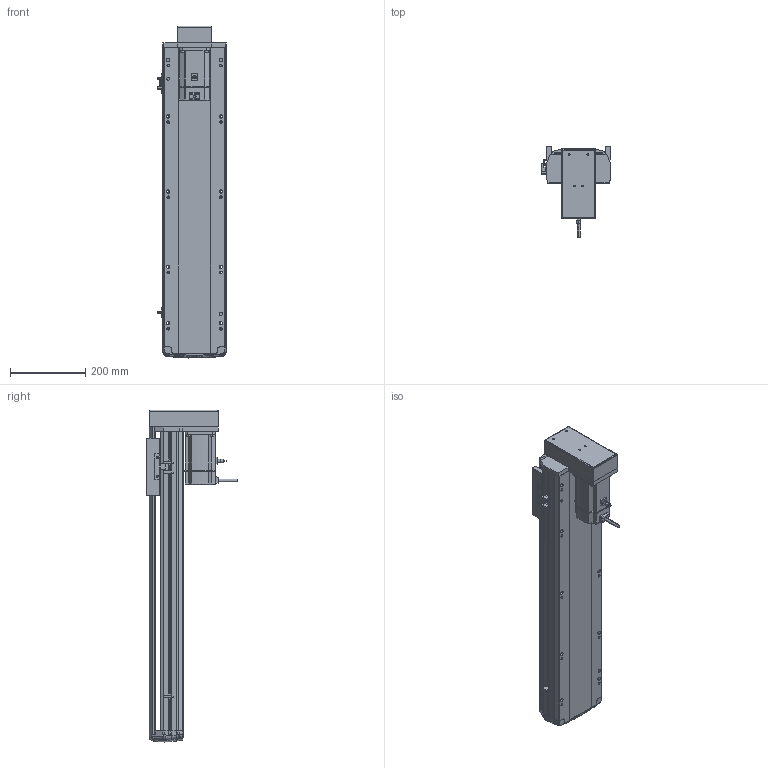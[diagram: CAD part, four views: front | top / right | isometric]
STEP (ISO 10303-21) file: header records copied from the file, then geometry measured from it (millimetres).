
FILE_DESCRIPTION (( 'STEP AP214' ), '1' );
FILE_NAME ('RTH17-XX-600-M-M75-C4.STEP', '2025-10-24T10:24:30', ( '' ), ( '' ), 'SwSTEP 2.0', 'SolidWorks 2018', '' );
FILE_SCHEMA (( 'AUTOMOTIVE_DESIGN' ));
Length unit declared in the file: millimetre
Products named in the file (10): N_RTH17-GY-001P^RTH17-XX-XX-M-M75-C4（方程式）; N_RTH17-M-007上盖^RTH17-XX-XX-M-M75-C4（方程式）; N_RTH17-M-018盖子^RTH17-XX-XX-M-M75-C4（方程式）; N_OMRON EE-SX672 換覜ん^RTH17-XX-XX-M-M75-C4ㄗ源最宒ㄘ; N_RTH17-M-011底座^RTH17-XX-XX-M-M75-C4（方程式）; N_M75^RTH17-XX-XX-M-M75-C4（方程式）; N_RTH-BL-012 感应片(外置)^RTH17-XX-XX-M-M75-C4（方程式）; N_RTH17-E-004丝杆螺母连接座^RTH17-XX-XX-M-M75-C4（方程式）; RTH17-XX-600-M-M75-C4; N_RTH17-M-008-P75电机安装板下折750W^RTH17-XX-XX-M-M75-C4（方程式）
Assembly tree (11 placements, depth 2):
  RTH17-XX-600-M-M75-C4
    N_RTH17-M-011底座^RTH17-XX-XX-M-M75-C4（方程式）
    N_RTH17-M-007上盖^RTH17-XX-XX-M-M75-C4（方程式）
    N_M75^RTH17-XX-XX-M-M75-C4（方程式）
    N_OMRON EE-SX672 換覜ん^RTH17-XX-XX-M-M75-C4ㄗ源最宒ㄘ  x3
    N_RTH-BL-012 感应片(外置)^RTH17-XX-XX-M-M75-C4（方程式）
    N_RTH17-M-008-P75电机安装板下折750W^RTH17-XX-XX-M-M75-C4（方程式）
    N_RTH17-M-018盖子^RTH17-XX-XX-M-M75-C4（方程式）
    N_RTH17-E-004丝杆螺母连接座^RTH17-XX-XX-M-M75-C4（方程式）
    N_RTH17-GY-001P^RTH17-XX-XX-M-M75-C4（方程式）
Bounding box: 183.5 x 240.7 x 883.19 mm (x, y, z)
Volume: 7503217 mm3; surface area: 1066106.5 mm2
Topology: 10 solids, 12 shells, 1741 faces, 4796 edges, 3104 vertices
Faces by surface type: plane 828, cylinder 499, bspline 377, cone 28, torus 9
Entity records: 50655 total; most frequent: CARTESIAN_POINT 20266, ORIENTED_EDGE 6616, DIRECTION 5494, EDGE_CURVE 3312, VERTEX_POINT 2140, AXIS2_PLACEMENT_3D 1843, VECTOR 1808, LINE 1808
